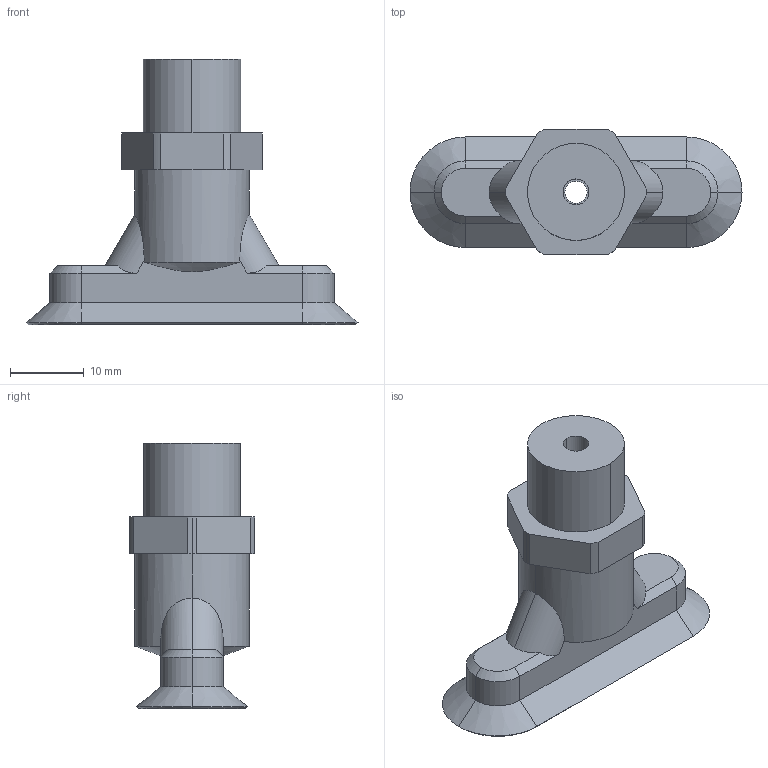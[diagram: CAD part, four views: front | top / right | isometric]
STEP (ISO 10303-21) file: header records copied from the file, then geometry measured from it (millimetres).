
FILE_DESCRIPTION(('STEP AP214'),'1');
FILE_NAME('10_01_05_00411.stp','2021-01-28T16:52:13',('TraceParts'),('TraceParts S.A.'),'Spatial InterOp 3D',' ',' ');
FILE_SCHEMA(('AUTOMOTIVE_DESIGN { 1 0 10303 214 1 1 1 1 }'));
Length unit declared in the file: millimetre
Products named in the file (1): 10_01_05_00411
Bounding box: 45 x 17 x 36 mm (x, y, z)
Volume: 6960.7 mm3; surface area: 4029.8 mm2
Topology: 1 solids, 4 shells, 91 faces, 214 edges, 134 vertices
Faces by surface type: plane 37, cylinder 34, cone 20
Entity records: 3453 total; most frequent: CARTESIAN_POINT 566, DIRECTION 464, ORIENTED_EDGE 428, EDGE_CURVE 214, AXIS2_PLACEMENT_3D 172, VERTEX_POINT 134, LINE 120, VECTOR 120
